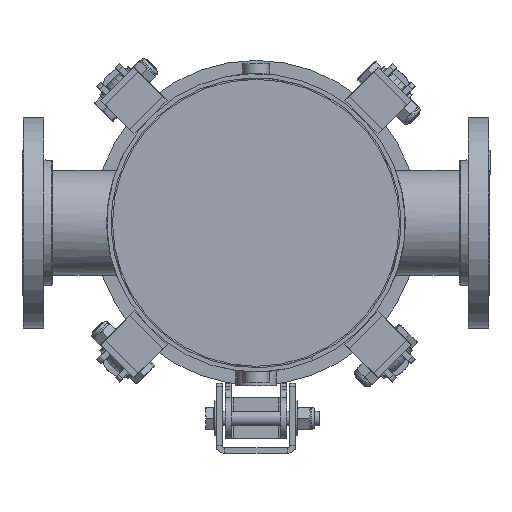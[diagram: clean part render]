
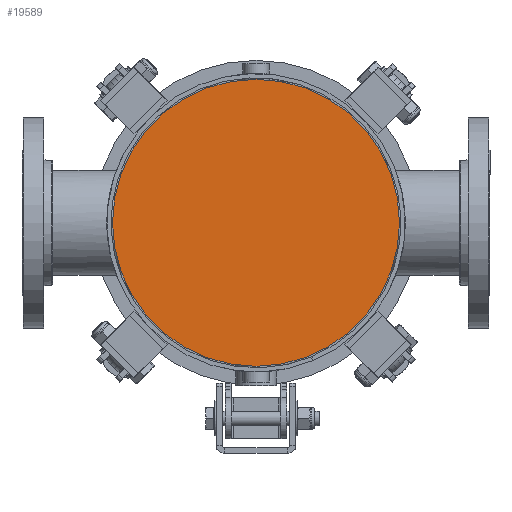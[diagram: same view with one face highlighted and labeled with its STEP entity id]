
A CAD part, front view. The second image highlights one B-rep face of the part: STEP entity #19589.
In plain terms, the highlighted planar face has unit normal (0, -1, 0).
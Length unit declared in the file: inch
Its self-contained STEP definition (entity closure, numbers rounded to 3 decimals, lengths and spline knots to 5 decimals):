
#1007 = CARTESIAN_POINT ( 'NONE',  ( 0., -28.03125, 0. ) ) ;
#1830 = EDGE_LOOP ( 'NONE', ( #12955 ) ) ;
#6950 = EDGE_CURVE ( 'NONE', #19682, #19682, #18523, .T. ) ;
#10743 = FACE_OUTER_BOUND ( 'NONE', #1830, .T. ) ;
#12648 = DIRECTION ( 'NONE',  ( 0., -1., 0. ) ) ;
#12955 = ORIENTED_EDGE ( 'NONE', *, *, #6950, .T. ) ;
#17120 = DIRECTION ( 'NONE',  ( 1., 0., 0. ) ) ;
#17629 = CARTESIAN_POINT ( 'NONE',  ( 6.1325, -28.03125, 0. ) ) ;
#18523 = CIRCLE ( 'NONE', #24610, 6.1325 ) ;
#19434 = AXIS2_PLACEMENT_3D ( 'NONE', #23382, #12648, #17120 ) ;
#19589 = ADVANCED_FACE ( 'NONE', ( #10743 ), #21336, .T. ) ;
#19682 = VERTEX_POINT ( 'NONE', #17629 ) ;
#19774 = DIRECTION ( 'NONE',  ( 0., -1., 0. ) ) ;
#21336 = PLANE ( 'NONE',  #19434 ) ;
#22080 = DIRECTION ( 'NONE',  ( 1., 0., 0. ) ) ;
#23382 = CARTESIAN_POINT ( 'NONE',  ( 6.1325, -28.03125, 0. ) ) ;
#24610 = AXIS2_PLACEMENT_3D ( 'NONE', #1007, #19774, #22080 ) ;
